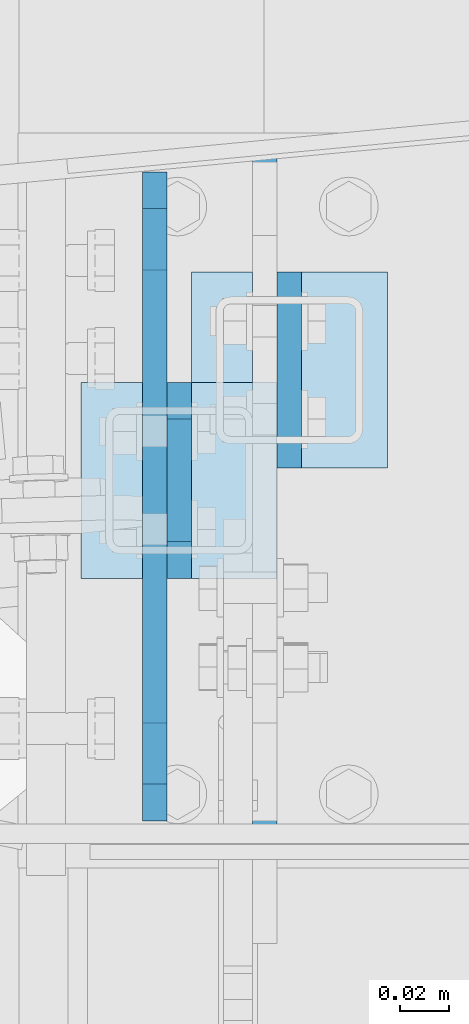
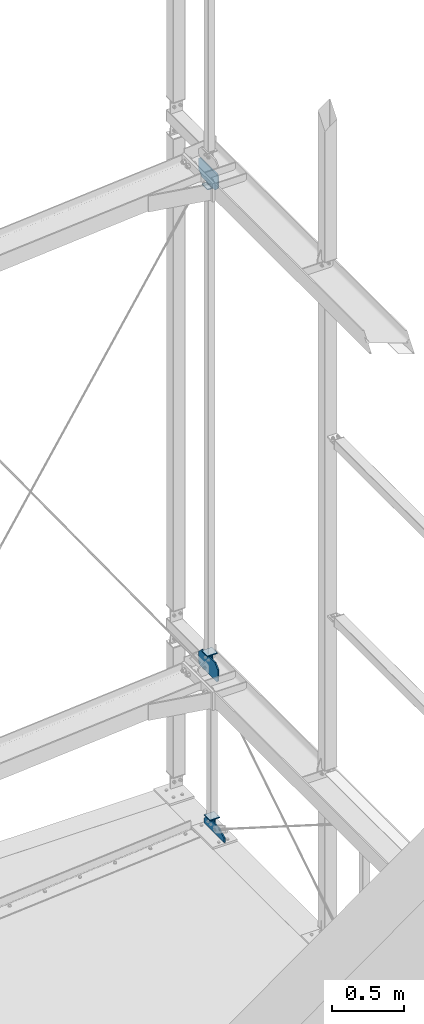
# One storey, part 189 of 271: 9 plates, 5 elements without a shape of their own.
"""IFC2X3 building model written with IfcOpenShell, lengths in millimetres."""

from ifc_helpers import new_model, si_unit, frame, origin_with_axes, place, context, subcontext, project, spatial, polyline, outline, extrude, material, type_object, element, aggregate, save


model = new_model("IFC2X3")

# Units and contexts
model_context = context("Model", 3, precision=1e-05, world=origin_with_axes())
body_context = subcontext(model_context, "Body", "Model", "MODEL_VIEW")
ifc_project = project(units=[si_unit("LENGTHUNIT", "METRE", prefix="MILLI"), si_unit("AREAUNIT", "SQUARE_METRE"), si_unit("VOLUMEUNIT", "CUBIC_METRE"), si_unit("MASSUNIT", "GRAM", prefix="KILO"), si_unit("TIMEUNIT", "SECOND"), si_unit("PLANEANGLEUNIT", "RADIAN"), si_unit("SOLIDANGLEUNIT", "STERADIAN"), si_unit("THERMODYNAMICTEMPERATUREUNIT", "DEGREE_CELSIUS"), si_unit("LUMINOUSINTENSITYUNIT", "LUMEN")], contexts=[model_context])

# Site, building, storey
site_placement = place(None, origin_with_axes())
site = spatial("IfcSite", under=ifc_project, at=site_placement, Name="Undefined", CompositionType="ELEMENT")
building_placement = place(site_placement, origin_with_axes())
building = spatial("IfcBuilding", under=site, at=building_placement, Name="Undefined", CompositionType="ELEMENT")
storey_placement = place(building_placement, origin_with_axes())
storey = spatial("IfcBuildingStorey", under=building, at=storey_placement, Name="Undefined", CompositionType="ELEMENT", Elevation=0.0)

# Assembly, plates
assembly_1_placement = place(storey_placement, origin_with_axes())
assembly_1 = element("IfcElementAssembly", 1, at=assembly_1_placement, inside=storey, AssemblyPlace="NOTDEFINED", PredefinedType="RIGID_FRAME")
ifc_material = material(Name="STEEL/S355JR")
plate_type_1 = type_object("IfcPlateType", Name="BL10*70", PredefinedType="NOTDEFINED")
plate_1_placement = place(assembly_1_placement, frame((12573.751374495, 4252.19355050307, 1482.64999985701), z_axis=(1.0, 0.0, 0.0), x_axis=(0.0, 0.707106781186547, -0.707106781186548)))
plate_1 = element("IfcPlate", 2, at=plate_1_placement, type_object=plate_type_1, material=ifc_material, Name="BLACHA", ObjectType="BL10*70", context=body_context, shape_type="SweptSolid", body=[
    extrude(outline(polyline([(0.0, 0.0), (21.2132034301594, 1.09139364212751e-11), (56.5685424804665, 35.3553390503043), (56.568542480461, 56.5685424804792), (17.6776695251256, 95.4594192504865), (-38.890872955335, 38.8908729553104), (0.0, 0.0)])), frame((0.0, 0.0, -5.0), z_axis=(0.0, 0.0, 1.0), x_axis=(1.0, 0.0, 0.0)), (0.0, 0.0, 1.0), 10.0),
])
plate_2_placement = place(assembly_1_placement, frame((12573.751374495, 4332.19355050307, 5566.04999995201), z_axis=(1.0, 0.0, 0.0), x_axis=(0.0, -0.707106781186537, 0.707106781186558)))
plate_2 = element("IfcPlate", 3, at=plate_2_placement, type_object=plate_type_1, material=ifc_material, Name="BLACHA", ObjectType="BL10*70", context=body_context, shape_type="SweptSolid", body=[
    extrude(outline(polyline([(0.0, 0.0), (21.2132034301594, 1.09139364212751e-11), (56.5685424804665, 35.3553390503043), (56.568542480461, 56.5685424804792), (17.6776695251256, 95.4594192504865), (-38.890872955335, 38.8908729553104), (0.0, 0.0)])), frame((0.0, 0.0, -5.0), z_axis=(0.0, 0.0, 1.0), x_axis=(1.0, 0.0, 0.0)), (0.0, 0.0, 1.0), 10.0),
])

# Assembly, plate
assembly_2_placement = place(storey_placement, origin_with_axes())
assembly_2 = element("IfcElementAssembly", 4, at=assembly_2_placement, inside=storey, AssemblyPlace="NOTDEFINED", PredefinedType="RIGID_FRAME")
plate_3_placement = place(assembly_2_placement, frame((12618.751374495, 4297.19355050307, 45.0000000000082), z_axis=(1.0, 0.0, 0.0), x_axis=(0.0, 0.707106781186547, -0.707106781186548)))
plate_3 = element("IfcPlate", 5, at=plate_3_placement, type_object=plate_type_1, material=ifc_material, Name="BLACHA", ObjectType="BL10*70", context=body_context, shape_type="SweptSolid", body=[
    extrude(outline(polyline([(0.0, 0.0), (21.2132034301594, 1.09139364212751e-11), (56.5685424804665, 35.3553390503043), (56.568542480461, 56.5685424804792), (17.6776695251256, 95.4594192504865), (-38.890872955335, 38.8908729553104), (0.0, 0.0)])), frame((0.0, 0.0, -5.0), z_axis=(0.0, 0.0, 1.0), x_axis=(1.0, 0.0, 0.0)), (0.0, 0.0, 1.0), 10.0),
])

# Plate
plate_type_2 = type_object("IfcPlateType", Name="BL8*80", PredefinedType="NOTDEFINED")
plate_4_placement = place(assembly_1_placement, frame((12533.751374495, 4252.19355050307, 1541.64999985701), z_axis=(0.0, 0.0, -1.0), x_axis=(0.0, 1.0, 0.0)))
plate_4 = element("IfcPlate", 6, at=plate_4_placement, type_object=plate_type_2, material=ifc_material, Name="BLACHA", ObjectType="BL8*80", context=body_context, shape_type="SweptSolid", body=[
    extrude(outline(polyline([(0.0, 0.0), (80.0, 0.0), (80.0, 80.0), (0.0, 80.0), (0.0, 0.0)])), frame((0.0, 0.0, -4.0), z_axis=(0.0, 0.0, 1.0), x_axis=(1.0, 0.0, 0.0)), (0.0, 0.0, 1.0), 8.0),
])

plate_5_placement = place(assembly_1_placement, frame((12533.751374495, 4332.19355050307, 5507.04999995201), z_axis=(0.0, 0.0, 1.0), x_axis=(0.0, -1.0, 0.0)))
plate_5 = element("IfcPlate", 7, at=plate_5_placement, type_object=plate_type_2, material=ifc_material, Name="BLACHA", ObjectType="BL8*80", context=body_context, shape_type="SweptSolid", body=[
    extrude(outline(polyline([(0.0, 0.0), (80.0, 0.0), (80.0, 80.0), (0.0, 80.0), (0.0, 0.0)])), frame((0.0, 0.0, -4.0), z_axis=(0.0, 0.0, 1.0), x_axis=(1.0, 0.0, 0.0)), (0.0, 0.0, 1.0), 8.0),
])

aggregate(assembly_1, [plate_4, plate_1, plate_5, plate_2])

plate_6_placement = place(assembly_2_placement, frame((12578.751374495, 4297.19355050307, 104.000000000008), z_axis=(0.0, 0.0, -1.0), x_axis=(0.0, 1.0, 0.0)))
plate_6 = element("IfcPlate", 8, at=plate_6_placement, type_object=plate_type_2, material=ifc_material, Name="BLACHA", ObjectType="BL8*80", context=body_context, shape_type="SweptSolid", body=[
    extrude(outline(polyline([(0.0, 0.0), (80.0, 0.0), (80.0, 80.0), (0.0, 80.0), (0.0, 0.0)])), frame((0.0, 0.0, -4.0), z_axis=(0.0, 0.0, 1.0), x_axis=(1.0, 0.0, 0.0)), (0.0, 0.0, 1.0), 8.0),
])

aggregate(assembly_2, [plate_6, plate_3])

# Assembly, plate
assembly_3_placement = place(storey_placement, origin_with_axes())
assembly_3 = element("IfcElementAssembly", 9, at=assembly_3_placement, inside=storey, AssemblyPlace="NOTDEFINED", PredefinedType="RIGID_FRAME")
plate_type_3 = type_object("IfcPlateType", Name="BL10*80", PredefinedType="NOTDEFINED")
plate_7_placement = place(assembly_3_placement, frame((12608.751374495, 4144.19355050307, 8.21387402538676e-12), z_axis=(1.0, 0.0, 0.0), x_axis=(0.0, 1.0, 0.0)))
plate_7 = element("IfcPlate", 10, at=plate_7_placement, type_object=plate_type_3, material=ifc_material, Name="BLACHA", ObjectType="BL10*80", context=body_context, shape_type="SweptSolid", body=[
    extrude(outline(polyline([(0.0, 0.0), (280.0, 0.0), (280.0, 40.0000000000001), (240.0, 80.0), (80.0, 80.0), (0.0, 40.0), (0.0, 0.0)])), frame((0.0, 0.0, -5.0), z_axis=(0.0, 0.0, 1.0), x_axis=(1.0, 0.0, 0.0)), (0.0, 0.0, 1.0), 10.0),
])
aggregate(assembly_3, [plate_7])

assembly_4_placement = place(storey_placement, origin_with_axes())
assembly_4 = element("IfcElementAssembly", 11, at=assembly_4_placement, inside=storey, AssemblyPlace="NOTDEFINED", PredefinedType="RIGID_FRAME")
plate_type_4 = type_object("IfcPlateType", Name="BL10*150", PredefinedType="NOTDEFINED")
plate_8_placement = place(assembly_4_placement, frame((12563.751374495, 4153.19355050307, 1367.64999985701), z_axis=(1.0, 0.0, 0.0), x_axis=(0.0, 1.0, 0.0)))
plate_8 = element("IfcPlate", 12, at=plate_8_placement, type_object=plate_type_4, material=ifc_material, Name="BLACHA", ObjectType="BL10*150", context=body_context, shape_type="SweptSolid", body=[
    extrude(outline(polyline([(0.0, 15.0), (15.0, -1.59872115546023e-14), (250.0, -1.4210854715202e-14), (265.0, 15.0), (265.0, 110.0), (225.0, 150.0), (40.0, 150.0), (0.0, 110.0), (0.0, 15.0)])), frame((0.0, 0.0, -5.0), z_axis=(0.0, 0.0, 1.0), x_axis=(1.0, 0.0, 0.0)), (0.0, 0.0, 1.0), 10.0),
])
aggregate(assembly_4, [plate_8])

assembly_5_placement = place(storey_placement, origin_with_axes())
assembly_5 = element("IfcElementAssembly", 13, at=assembly_5_placement, inside=storey, AssemblyPlace="NOTDEFINED", PredefinedType="RIGID_FRAME")
plate_9_placement = place(assembly_5_placement, frame((12563.751374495, 4418.19355050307, 5681.04999995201), z_axis=(1.0, 0.0, 0.0), x_axis=(0.0, -1.0, 0.0)))
plate_9 = element("IfcPlate", 14, at=plate_9_placement, type_object=plate_type_4, material=ifc_material, Name="BLACHA", ObjectType="BL10*150", context=body_context, shape_type="SweptSolid", body=[
    extrude(outline(polyline([(0.0, 15.0), (15.0, -1.59872115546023e-14), (250.0, -1.4210854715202e-14), (265.0, 15.0), (265.0, 110.0), (225.0, 150.0), (40.0, 150.0), (0.0, 110.0), (0.0, 15.0)])), frame((0.0, 0.0, -5.0), z_axis=(0.0, 0.0, 1.0), x_axis=(1.0, 0.0, 0.0)), (0.0, 0.0, 1.0), 10.0),
])
aggregate(assembly_5, [plate_9])

save(model, "model.ifc")
